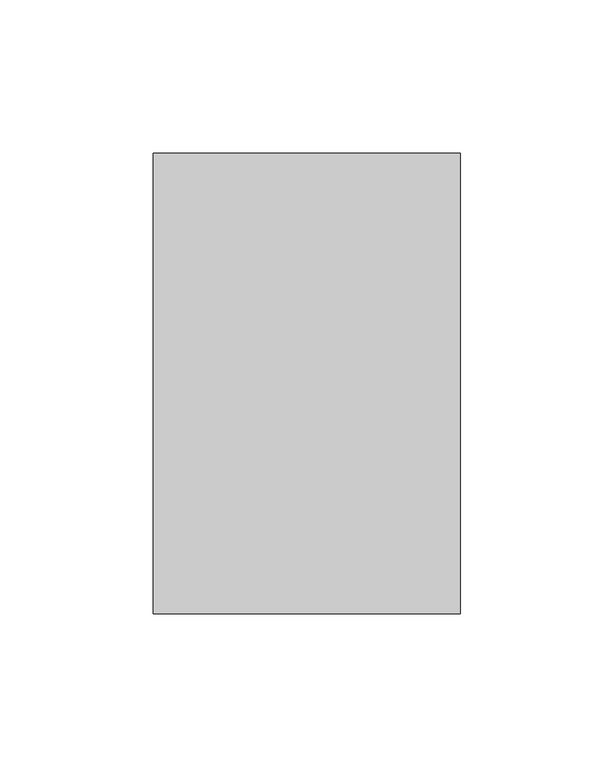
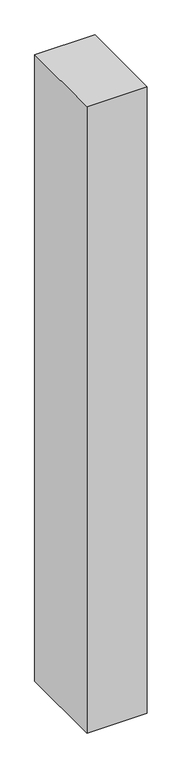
"""IFC4 building model written with IfcOpenShell, lengths in millimetres: member geometry, 矩形竖梃 : 教学楼 – 矩形竖梃 – 100x150mm."""

from ifc_helpers import new_model, si_unit, frame, origin, place, context, project, spatial, polyline, outline, extrude, source, transform, mapped, element, save


def member_2b011958(model_context):
    return source(origin(), model_context, "Body", "SweptSolid", [
        extrude(outline(polyline([(0.0, 75.0), (0.0, -75.0), (-100.0, -75.0), (-100.0, 75.0), (0.0, 75.0)])), frame((0.0, 0.0, -1100.0), z_axis=(0.0, 0.0, 1.0), x_axis=(1.0, 0.0, 0.0)), (0.0, 0.0, 1.0), 1100.0),
    ])


if __name__ == "__main__":
    model = new_model("IFC4")
    model_context = context("Model", 3, world=origin())
    ifc_project = project(units=[si_unit("LENGTHUNIT", "METRE", prefix="MILLI")], contexts=[model_context])
    site = spatial("IfcSite", under=ifc_project)
    building = spatial("IfcBuilding", under=site)
    placement = place(None, origin())
    member_shape = member_2b011958(model_context)
    element("IfcMember", 1, ObjectType="矩形竖梃 : 教学楼 – 矩形竖梃 – 100x150mm", at=placement, inside=building, context=model_context, shape_type="MappedRepresentation", body=[
        mapped(member_shape, transform((0.0, 0.0, 0.0), x_axis=(1.0, 0.0, 0.0), y_axis=(0.0, 1.0, 0.0), z_axis=(0.0, 0.0, 1.0))),
    ])
    save(model, "model.ifc")
